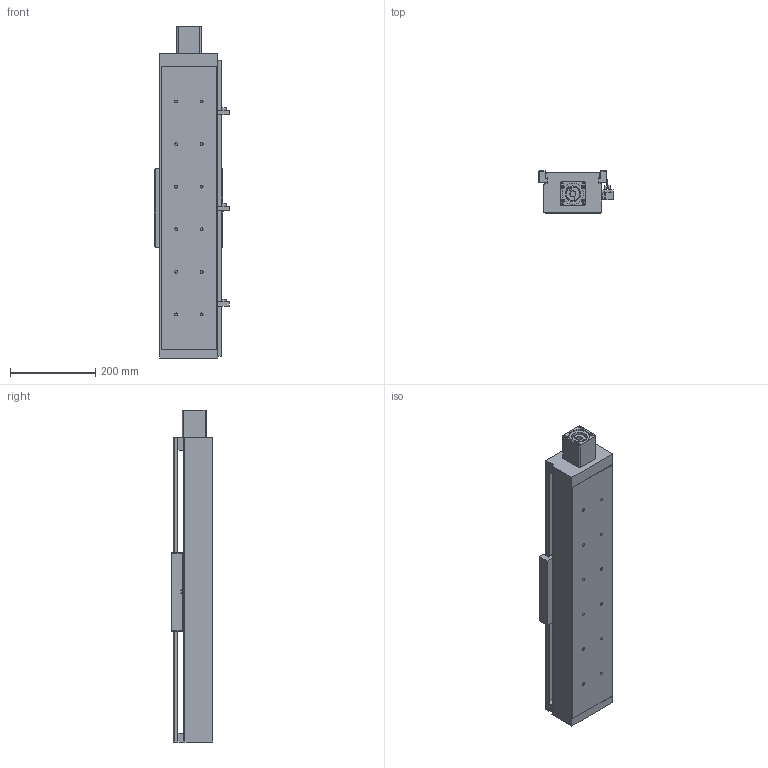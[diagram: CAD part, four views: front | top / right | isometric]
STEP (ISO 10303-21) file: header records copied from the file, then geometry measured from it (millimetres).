
FILE_DESCRIPTION((''),'2;1');
FILE_NAME('E:\libraries\UIA actuator library 2009\standard actuator\UIA136 ball screw 25\UIA136R15NDC-_ _ _-R25_ _, stp file 27Apr16\UIA136R15NDC-450-R25_ _-M60-P13-C10-S.stp','2016-04-28T16:22:29',('h029'),(''),'Autodesk Inventor 11','Autodesk Inventor 11','');
FILE_SCHEMA(('AUTOMOTIVE_DESIGN { 1 0 10303 214 1 1 1 1 }'));
Length unit declared in the file: millimetre
Products named in the file (10): UIA136R15NDC-450; UIA136R15NDC-body; motor mount F60; SOH-32C; SOH-32C-3; SOH-32C-1; SOH-32C-2; Carriage; Sensor Switch; sensor rail
Assembly tree (9 placements, depth 3):
  UIA136R15NDC-450
    UIA136R15NDC-body
    motor mount F60
    SOH-32C
      SOH-32C-3
      SOH-32C-1
      SOH-32C-2
    Carriage
    Sensor Switch
    sensor rail
Bounding box: 174.5 x 98 x 780 mm (x, y, z)
Volume: 3234981.2 mm3; surface area: 847331.7 mm2
Topology: 8 solids, 8 shells, 492 faces, 1307 edges, 854 vertices
Faces by surface type: plane 322, bspline 122, cylinder 44, cone 4
Full cylindrical faces by diameter (mm): 2.459 x2, 3.242 x2, 4.5 x2, 7 x4, 7.5 x2, 14 x3, 17 x1, 32 x3, 37 x1, 50.3 x1, 50.5 x1
Entity records: 16044 total; most frequent: CARTESIAN_POINT 4508, ORIENTED_EDGE 2240, DIRECTION 2194, EDGE_CURVE 1120, VECTOR 808, LINE 808, VERTEX_POINT 790, EDGE_LOOP 716
